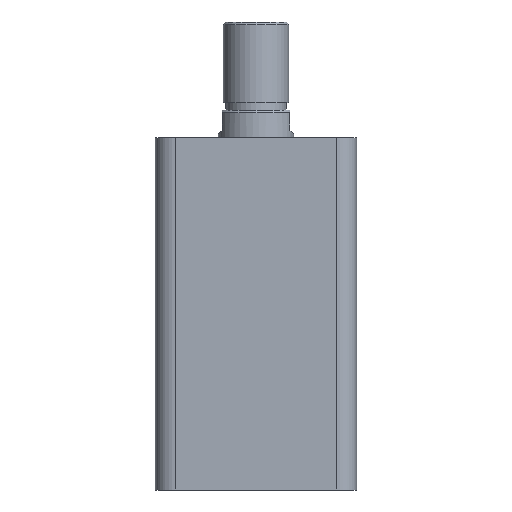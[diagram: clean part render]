
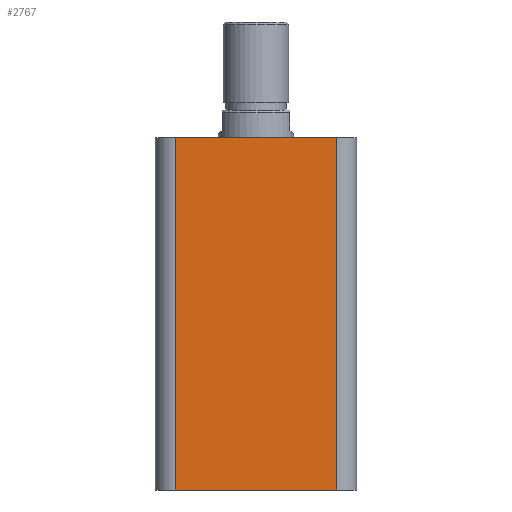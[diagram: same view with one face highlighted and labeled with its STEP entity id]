
A CAD part, front view. The second image highlights one B-rep face of the part: STEP entity #2767.
In plain terms, the highlighted planar face has unit normal (0, -1, 0).
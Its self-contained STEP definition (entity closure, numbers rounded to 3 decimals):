
#116 = VECTOR ( 'NONE', #2371, 1000. ) ;
#118 = VECTOR ( 'NONE', #2377, 1000. ) ;
#119 = LINE ( 'NONE', #2353, #118 ) ;
#120 = LINE ( 'NONE', #2376, #116 ) ;
#121 = VECTOR ( 'NONE', #2379, 1000. ) ;
#123 = VECTOR ( 'NONE', #2477, 1000. ) ;
#124 = LINE ( 'NONE', #2534, #123 ) ;
#125 = LINE ( 'NONE', #2346, #121 ) ;
#145 = DIRECTION ( 'NONE',  ( 0., 0., 1. ) ) ;
#150 = DIRECTION ( 'NONE',  ( 0., 1., 0. ) ) ;
#152 = PLANE ( 'NONE',  #1949 ) ;
#154 = CARTESIAN_POINT ( 'NONE',  ( -40., -40., 140. ) ) ;
#420 = VERTEX_POINT ( 'NONE', #2213 ) ;
#480 = VERTEX_POINT ( 'NONE', #2187 ) ;
#513 = VERTEX_POINT ( 'NONE', #2175 ) ;
#518 = VERTEX_POINT ( 'NONE', #2173 ) ;
#684 = ORIENTED_EDGE ( 'NONE', *, *, #831, .T. ) ;
#700 = ORIENTED_EDGE ( 'NONE', *, *, #830, .F. ) ;
#708 = ORIENTED_EDGE ( 'NONE', *, *, #832, .T. ) ;
#830 = EDGE_CURVE ( 'NONE', #420, #480, #124, .T. ) ;
#831 = EDGE_CURVE ( 'NONE', #420, #513, #125, .T. ) ;
#832 = EDGE_CURVE ( 'NONE', #513, #518, #119, .T. ) ;
#833 = EDGE_CURVE ( 'NONE', #518, #480, #120, .T. ) ;
#1175 = EDGE_LOOP ( 'NONE', ( #700, #684, #708, #1423 ) ) ;
#1423 = ORIENTED_EDGE ( 'NONE', *, *, #833, .T. ) ;
#1593 = FACE_OUTER_BOUND ( 'NONE', #1175, .T. ) ;
#1949 = AXIS2_PLACEMENT_3D ( 'NONE', #154, #150, #145 ) ;
#2173 = CARTESIAN_POINT ( 'NONE',  ( 32., -40., 0. ) ) ;
#2175 = CARTESIAN_POINT ( 'NONE',  ( -32., -40., 0. ) ) ;
#2187 = CARTESIAN_POINT ( 'NONE',  ( 32., -40., 140. ) ) ;
#2213 = CARTESIAN_POINT ( 'NONE',  ( -32., -40., 140. ) ) ;
#2346 = CARTESIAN_POINT ( 'NONE',  ( -32., -40., 140. ) ) ;
#2353 = CARTESIAN_POINT ( 'NONE',  ( -40., -40., 0. ) ) ;
#2371 = DIRECTION ( 'NONE',  ( 0., 0., 1. ) ) ;
#2376 = CARTESIAN_POINT ( 'NONE',  ( 32., -40., 140. ) ) ;
#2377 = DIRECTION ( 'NONE',  ( 1., 0., 0. ) ) ;
#2379 = DIRECTION ( 'NONE',  ( 0., 0., -1. ) ) ;
#2477 = DIRECTION ( 'NONE',  ( 1., 0., 0. ) ) ;
#2534 = CARTESIAN_POINT ( 'NONE',  ( -40., -40., 140. ) ) ;
#2767 = ADVANCED_FACE ( 'NONE', ( #1593 ), #152, .F. ) ;
